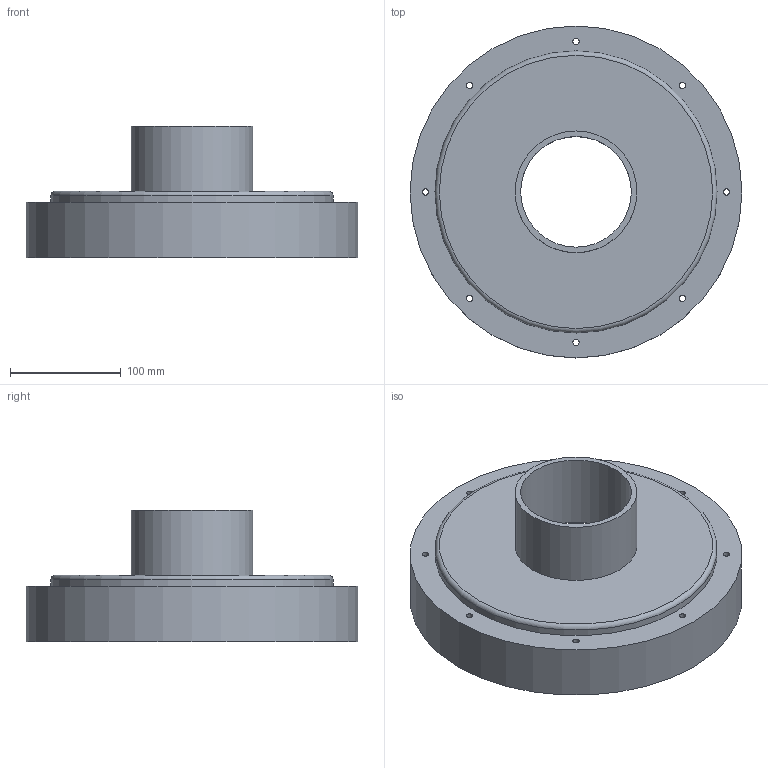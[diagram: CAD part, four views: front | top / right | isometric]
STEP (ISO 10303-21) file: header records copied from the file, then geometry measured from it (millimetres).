
FILE_DESCRIPTION(/* description */ (''),/* implementation_level */ '2;1');
FILE_NAME(/* name */ 'speaker flange.stp',/* time_stamp */ '2026-07-13T09:10:03+03:00',/* author */ ('USER'),/* organization */ (''),/* preprocessor_version */ 'ST-DEVELOPER v20',/* originating_system */ 'Autodesk Inventor 2025',/* authorisation */ '');
FILE_SCHEMA (('AUTOMOTIVE_DESIGN { 1 0 10303 214 3 1 1 }'));
Length unit declared in the file: millimetre
Products named in the file (1): speaker flange
Bounding box: 300 x 300 x 118.8 mm (x, y, z)
Volume: 1497091.6 mm3; surface area: 268123.3 mm2
Topology: 2 solids, 2 shells, 19 faces, 43 edges, 29 vertices
Faces by surface type: cylinder 13, plane 5, torus 1
Full cylindrical faces by diameter (mm): 5.667 x8, 100 x1, 110 x1, 255 x2, 300 x1
Entity records: 637 total; most frequent: DIRECTION 113, CARTESIAN_POINT 92, ORIENTED_EDGE 86, AXIS2_PLACEMENT_3D 50, EDGE_CURVE 43, EDGE_LOOP 40, CIRCLE 30, VERTEX_POINT 29
